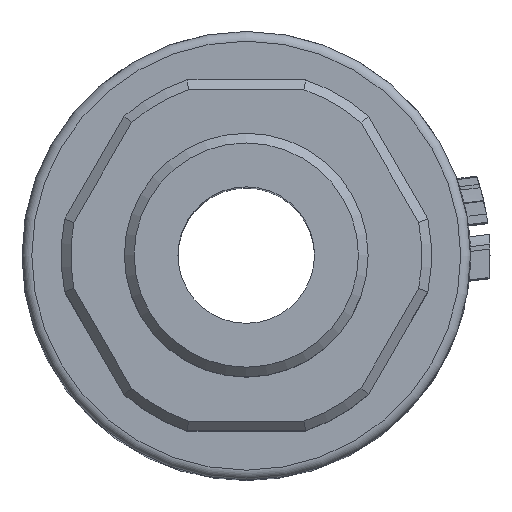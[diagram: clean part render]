
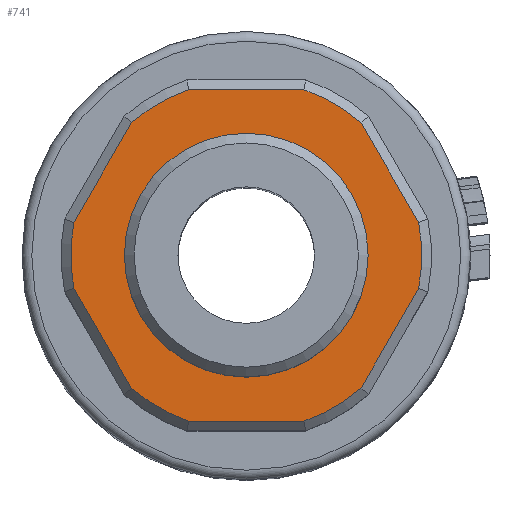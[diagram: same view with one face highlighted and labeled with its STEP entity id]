
A CAD part, top view. The second image highlights one B-rep face of the part: STEP entity #741.
In plain terms, the highlighted planar face has unit normal (0, 0, 1).
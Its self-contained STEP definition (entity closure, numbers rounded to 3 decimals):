
#158=FACE_BOUND('',#1638,.T.);
#159=FACE_BOUND('',#1639,.T.);
#281=CIRCLE('',#6859,5.5);
#296=CIRCLE('',#6889,9.);
#297=CIRCLE('',#6890,9.);
#298=CIRCLE('',#6891,9.);
#299=CIRCLE('',#6892,9.);
#300=CIRCLE('',#6893,9.);
#301=CIRCLE('',#6894,9.);
#438=PLANE('',#6895);
#741=ADVANCED_FACE('',(#158,#159),#438,.F.);
#1638=EDGE_LOOP('',(#3656,#3657,#3658,#3659,#3660,#3661,#3662,#3663,#3664,
#3665,#3666,#3667));
#1639=EDGE_LOOP('',(#3668));
#3656=ORIENTED_EDGE('',*,*,#5589,.T.);
#3657=ORIENTED_EDGE('',*,*,#5590,.T.);
#3658=ORIENTED_EDGE('',*,*,#5591,.T.);
#3659=ORIENTED_EDGE('',*,*,#5592,.T.);
#3660=ORIENTED_EDGE('',*,*,#5593,.T.);
#3661=ORIENTED_EDGE('',*,*,#5594,.T.);
#3662=ORIENTED_EDGE('',*,*,#5595,.T.);
#3663=ORIENTED_EDGE('',*,*,#5596,.T.);
#3664=ORIENTED_EDGE('',*,*,#5597,.T.);
#3665=ORIENTED_EDGE('',*,*,#5598,.T.);
#3666=ORIENTED_EDGE('',*,*,#5599,.T.);
#3667=ORIENTED_EDGE('',*,*,#5600,.T.);
#3668=ORIENTED_EDGE('',*,*,#5550,.T.);
#4679=VERTEX_POINT('',#14365);
#4708=VERTEX_POINT('',#14448);
#4709=VERTEX_POINT('',#14449);
#4710=VERTEX_POINT('',#14451);
#4711=VERTEX_POINT('',#14453);
#4712=VERTEX_POINT('',#14455);
#4713=VERTEX_POINT('',#14457);
#4714=VERTEX_POINT('',#14459);
#4715=VERTEX_POINT('',#14461);
#4716=VERTEX_POINT('',#14463);
#4717=VERTEX_POINT('',#14465);
#4718=VERTEX_POINT('',#14467);
#4719=VERTEX_POINT('',#14469);
#5550=EDGE_CURVE('',#4679,#4679,#281,.T.);
#5589=EDGE_CURVE('',#4708,#4709,#296,.T.);
#5590=EDGE_CURVE('',#4709,#4710,#6069,.T.);
#5591=EDGE_CURVE('',#4710,#4711,#297,.T.);
#5592=EDGE_CURVE('',#4711,#4712,#6070,.T.);
#5593=EDGE_CURVE('',#4712,#4713,#298,.T.);
#5594=EDGE_CURVE('',#4713,#4714,#6071,.T.);
#5595=EDGE_CURVE('',#4714,#4715,#299,.T.);
#5596=EDGE_CURVE('',#4715,#4716,#6072,.T.);
#5597=EDGE_CURVE('',#4716,#4717,#300,.T.);
#5598=EDGE_CURVE('',#4717,#4718,#6073,.T.);
#5599=EDGE_CURVE('',#4718,#4719,#301,.T.);
#5600=EDGE_CURVE('',#4719,#4708,#6074,.T.);
#6069=LINE('',#14450,#6621);
#6070=LINE('',#14454,#6622);
#6071=LINE('',#14458,#6623);
#6072=LINE('',#14462,#6624);
#6073=LINE('',#14466,#6625);
#6074=LINE('',#14470,#6626);
#6621=VECTOR('',#7935,1.);
#6622=VECTOR('',#7938,1.);
#6623=VECTOR('',#7941,1.);
#6624=VECTOR('',#7944,1.);
#6625=VECTOR('',#7947,1.);
#6626=VECTOR('',#7950,1.);
#6859=AXIS2_PLACEMENT_3D('',#14364,#7849,#7850);
#6889=AXIS2_PLACEMENT_3D('',#14447,#7933,#7934);
#6890=AXIS2_PLACEMENT_3D('',#14452,#7936,#7937);
#6891=AXIS2_PLACEMENT_3D('',#14456,#7939,#7940);
#6892=AXIS2_PLACEMENT_3D('',#14460,#7942,#7943);
#6893=AXIS2_PLACEMENT_3D('',#14464,#7945,#7946);
#6894=AXIS2_PLACEMENT_3D('',#14468,#7948,#7949);
#6895=AXIS2_PLACEMENT_3D('',#14471,#7951,#7952);
#7849=DIRECTION('',(0.,0.,-1.));
#7850=DIRECTION('',(-1.,0.,0.));
#7933=DIRECTION('',(0.,0.,1.));
#7934=DIRECTION('',(-1.,0.,0.));
#7935=DIRECTION('',(0.5,0.866,0.));
#7936=DIRECTION('',(0.,0.,1.));
#7937=DIRECTION('',(-1.,0.,0.));
#7938=DIRECTION('',(-0.5,0.866,0.));
#7939=DIRECTION('',(0.,0.,1.));
#7940=DIRECTION('',(-1.,0.,0.));
#7941=DIRECTION('',(-1.,0.,0.));
#7942=DIRECTION('',(0.,0.,1.));
#7943=DIRECTION('',(-1.,0.,0.));
#7944=DIRECTION('',(-0.5,-0.866,0.));
#7945=DIRECTION('',(0.,0.,1.));
#7946=DIRECTION('',(-1.,0.,0.));
#7947=DIRECTION('',(0.5,-0.866,0.));
#7948=DIRECTION('',(0.,0.,1.));
#7949=DIRECTION('',(-1.,0.,0.));
#7950=DIRECTION('',(1.,0.,0.));
#7951=DIRECTION('',(0.,0.,-1.));
#7952=DIRECTION('',(-1.,0.,0.));
#14364=CARTESIAN_POINT('',(0.,0.,
35.5));
#14365=CARTESIAN_POINT('',(-5.5,0.,35.5));
#14447=CARTESIAN_POINT('',(0.,0.,35.5));
#14448=CARTESIAN_POINT('',(2.958,-8.5,35.5));
#14449=CARTESIAN_POINT('',(5.882,-6.812,35.5));
#14450=CARTESIAN_POINT('',(7.361,-4.25,35.5));
#14451=CARTESIAN_POINT('',(8.84,-1.688,35.5));
#14452=CARTESIAN_POINT('',(0.,0.,35.5));
#14453=CARTESIAN_POINT('',(8.84,1.688,35.5));
#14454=CARTESIAN_POINT('',(7.361,4.25,35.5));
#14455=CARTESIAN_POINT('',(5.882,6.812,35.5));
#14456=CARTESIAN_POINT('',(0.,0.,35.5));
#14457=CARTESIAN_POINT('',(2.958,8.5,35.5));
#14458=CARTESIAN_POINT('',(0.,8.5,35.5));
#14459=CARTESIAN_POINT('',(-2.958,8.5,35.5));
#14460=CARTESIAN_POINT('',(0.,0.,35.5));
#14461=CARTESIAN_POINT('',(-5.882,6.812,35.5));
#14462=CARTESIAN_POINT('',(-7.361,4.25,35.5));
#14463=CARTESIAN_POINT('',(-8.84,1.688,35.5));
#14464=CARTESIAN_POINT('',(0.,0.,35.5));
#14465=CARTESIAN_POINT('',(-8.84,-1.688,35.5));
#14466=CARTESIAN_POINT('',(-7.361,-4.25,35.5));
#14467=CARTESIAN_POINT('',(-5.882,-6.812,35.5));
#14468=CARTESIAN_POINT('',(0.,0.,35.5));
#14469=CARTESIAN_POINT('',(-2.958,-8.5,35.5));
#14470=CARTESIAN_POINT('',(0.,-8.5,35.5));
#14471=CARTESIAN_POINT('',(0.,0.,
35.5));
